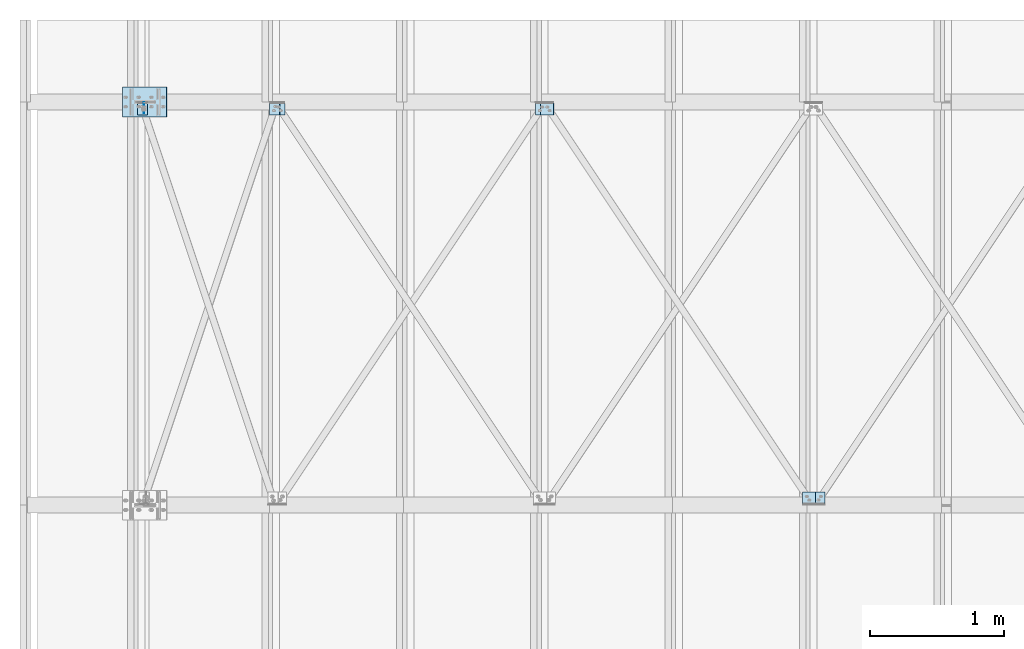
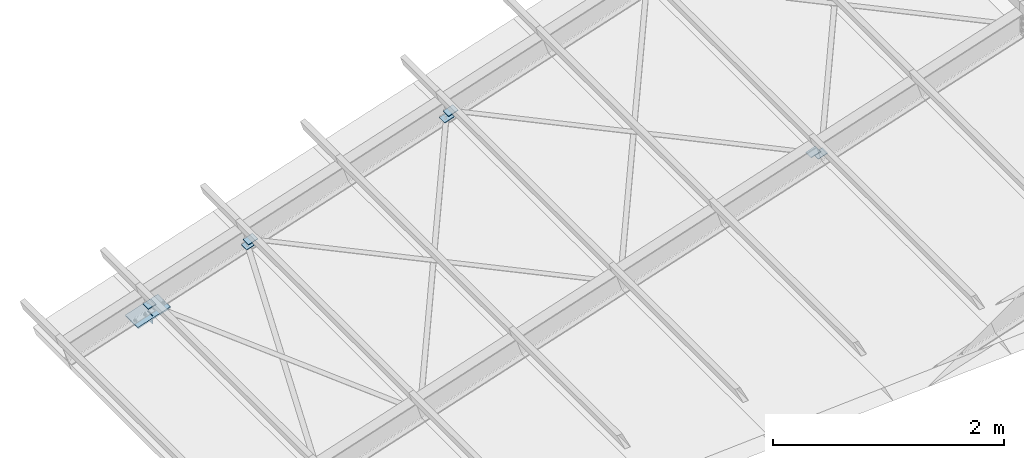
# One storey, part 7 of 53: 9 plates.
"""IFC4 building model written with IfcOpenShell, lengths in metres."""

from ifc_helpers import new_model, si_unit, frame, origin_with_axes, place, context, project, spatial, polyline, outline, extrude, type_object, element, save


model = new_model("IFC4")

# Units and contexts
model_context = context("Model", 3, precision=1e-05, world=origin_with_axes())
ifc_project = project(units=[si_unit("LENGTHUNIT", "METRE"), si_unit("AREAUNIT", "SQUARE_METRE"), si_unit("VOLUMEUNIT", "CUBIC_METRE"), si_unit("MASSUNIT", "GRAM", prefix="KILO"), si_unit("TIMEUNIT", "SECOND"), si_unit("PLANEANGLEUNIT", "RADIAN"), si_unit("SOLIDANGLEUNIT", "STERADIAN"), si_unit("THERMODYNAMICTEMPERATUREUNIT", "DEGREE_CELSIUS")], contexts=[model_context])

# Site, building, storey
placement_1 = place(None, origin_with_axes())
site = spatial("IfcSite", under=ifc_project, at=placement_1, Name="Italia", CompositionType="ELEMENT")
building = spatial("IfcBuilding", under=site, at=placement_1, Name="Capannone", CompositionType="ELEMENT")
storey_placement = place(None, frame((0.0, 0.0, 5.550000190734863), z_axis=(0.0, 0.0, 1.0), x_axis=(1.0, 0.0, 0.0)))
storey = spatial("IfcBuildingStorey", under=building, at=storey_placement, Name="Storey 1", CompositionType="ELEMENT", Elevation=5.550000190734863)

# Plates
plate_type_1 = type_object("IfcPlateType", Name="Collegamento -1057_-1087", PredefinedType="SHEET")
placement_2 = place(placement_1, origin_with_axes())
plate_1_placement = place(placement_2, origin_with_axes())
element("IfcPlate", 1, at=plate_1_placement, inside=storey, type_object=plate_type_1, Name="Collegamento -1057_-1087", context=model_context, shape_type="SweptSolid", body=[
    extrude(outline(polyline([(0.0, 0.0), (0.0940008, 4.76837e-07), (0.0940008, -0.101999), (9.53674e-07, -0.101998), (0.0, 0.0)])), frame((1.04071, 14.9029, 6.0051), z_axis=(0.312226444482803, 0.0, -0.950007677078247), x_axis=(0.0, 1.0, 0.0)), (0.0, 0.0, 1.0), 0.00499972),
])
plate_type_2 = type_object("IfcPlateType", Name="Collegamento -1057_0109", PredefinedType="SHEET")
plate_2_placement = place(placement_2, origin_with_axes())
element("IfcPlate", 2, at=plate_2_placement, inside=storey, type_object=plate_type_2, Name="Collegamento -1057_0109", context=model_context, shape_type="SweptSolid", body=[
    extrude(outline(polyline([(0.0, 0.0), (0.0939999, -4.76837e-07), (0.0940008, -0.0799997), (9.53674e-07, -0.0799997), (0.0, 0.0)])), frame((1.0026, 14.9029, 5.95047), z_axis=(0.312118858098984, 0.0, -0.950043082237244), x_axis=(0.0, 1.0, 0.0)), (0.0, 0.0, 1.0), 0.00499954),
])
plate_type_3 = type_object("IfcPlateType", Name="Collegamento -1089_-1055", PredefinedType="SHEET")
plate_3_placement = place(placement_2, origin_with_axes())
element("IfcPlate", 3, at=plate_3_placement, inside=storey, type_object=plate_type_3, Name="Collegamento -1089_-1055", context=model_context, shape_type="SweptSolid", body=[
    extrude(outline(polyline([(0.0, 0.0), (0.0939999, -4.76837e-07), (0.0940008, -0.102), (0.0, -0.102), (0.0, 0.0)])), frame((3.00156, 14.9029, 6.60728), z_axis=(0.312176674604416, 0.0, -0.950024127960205), x_axis=(0.0, 1.0, 0.0)), (0.0, 0.0, 1.0), 0.00500014),
])
plate_type_4 = type_object("IfcPlateType", Name="Collegamento -1089_-1119", PredefinedType="SHEET")
plate_4_placement = place(placement_2, origin_with_axes())
element("IfcPlate", 4, at=plate_4_placement, inside=storey, type_object=plate_type_4, Name="Collegamento -1089_-1119", context=model_context, shape_type="SweptSolid", body=[
    extrude(outline(polyline([(0.0, 0.0), (0.0939999, 9.53674e-07), (0.0939989, -0.102), (0.0, -0.102), (0.0, 0.0)])), frame((3.04071, 14.9029, 6.66224), z_axis=(0.312118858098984, 0.0, -0.950043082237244), x_axis=(0.0, 1.0, 0.0)), (0.0, 0.0, 1.0), 0.00499954),
])
plate_type_5 = type_object("IfcPlateType", Name="Collegamento -1119_-1089", PredefinedType="SHEET")
plate_5_placement = place(placement_2, origin_with_axes())
element("IfcPlate", 5, at=plate_5_placement, inside=storey, type_object=plate_type_5, Name="Collegamento -1119_-1089", context=model_context, shape_type="SweptSolid", body=[
    extrude(outline(polyline([(0.0, 0.0), (-0.0939999, 4.76837e-07), (-0.0940008, -0.102), (0.0, -0.102), (0.0, 0.0)])), frame((4.98908, 12.0971, 7.30242), z_axis=(0.312191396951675, 0.0, -0.950019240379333), x_axis=(0.0, 1.0, 0.0)), (0.0, 0.0, 1.0), 0.00500067),
])
plate_type_6 = type_object("IfcPlateType", Name="Collegamento -1119_-1147", PredefinedType="SHEET")
plate_6_placement = place(placement_2, origin_with_axes())
element("IfcPlate", 6, at=plate_6_placement, inside=storey, type_object=plate_type_6, Name="Collegamento -1119_-1147", context=model_context, shape_type="SweptSolid", body=[
    extrude(outline(polyline([(0.0, 0.0), (-0.0939999, 0.0), (-0.0939999, -0.102), (0.0, -0.102), (0.0, 0.0)])), frame((5.05944, 12.0971, 7.26239), z_axis=(0.312133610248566, 0.0, -0.950038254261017), x_axis=(0.0, 1.0, 0.0)), (0.0, 0.0, 1.0), 0.00500006),
])
plate_type_7 = type_object("IfcPlateType", Name="Collegamenti 0101_0001 0103_0003 0105_0005 0107_0007 0109_0009 0111_0011", PredefinedType="SHEET")
plate_7_placement = place(placement_2, origin_with_axes())
element("IfcPlate", 7, at=plate_7_placement, inside=storey, type_object=plate_type_7, Name="Collegamenti 0101_0001 0103_0003 0105_0005 0107_0007 0109_0009 0111_0011", context=model_context, shape_type="SweptSolid", body=[
    extrude(outline(polyline([(0.0, 0.0), (0.219999, 0.0), (0.219999, -0.34504), (0.0, -0.34504), (0.0, 0.0)])), frame((0.163898, 15.11, 5.58806), z_axis=(-0.312147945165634, 0.0, 0.950033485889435), x_axis=(0.0, -1.0, 0.0)), (0.0, 0.0, 1.0), 0.0150003),
])
plate_type_8 = type_object("IfcPlateType", Name="Collegamento 0111_-1055", PredefinedType="SHEET")
plate_8_placement = place(placement_2, origin_with_axes())
element("IfcPlate", 8, at=plate_8_placement, inside=storey, type_object=plate_type_8, Name="Collegamento 0111_-1055", context=model_context, shape_type="SweptSolid", body=[
    extrude(outline(polyline([(0.0, 0.0), (0.0939999, 2.38419e-07), (0.0939999, -0.08), (0.0, -0.0800002), (0.0, 0.0)])), frame((0.0189118, 14.9025, 5.66937), z_axis=(0.312196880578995, 0.0, -0.95001745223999), x_axis=(0.0, 1.0, 0.0)), (0.0, 0.0, 1.0), 0.00499967),
])
plate_type_9 = type_object("IfcPlateType", Name="Collegamento 0111_0009", PredefinedType="SHEET")
plate_9_placement = place(placement_2, origin_with_axes())
element("IfcPlate", 9, at=plate_9_placement, inside=storey, type_object=plate_type_9, Name="Collegamento 0111_0009", context=model_context, shape_type="SweptSolid", body=[
    extrude(outline(polyline([(0.0, 0.0), (0.0819988, 9.53674e-07), (0.0819988, -0.0899992), (0.0, -0.0900002), (0.0, 0.0)])), frame((-0.008, 14.9145, 5.55188), z_axis=(1.0, 0.0, 0.0), x_axis=(0.0, 1.0, 0.0)), (0.0, 0.0, 1.0), 0.004),
])

save(model, "model.ifc")
